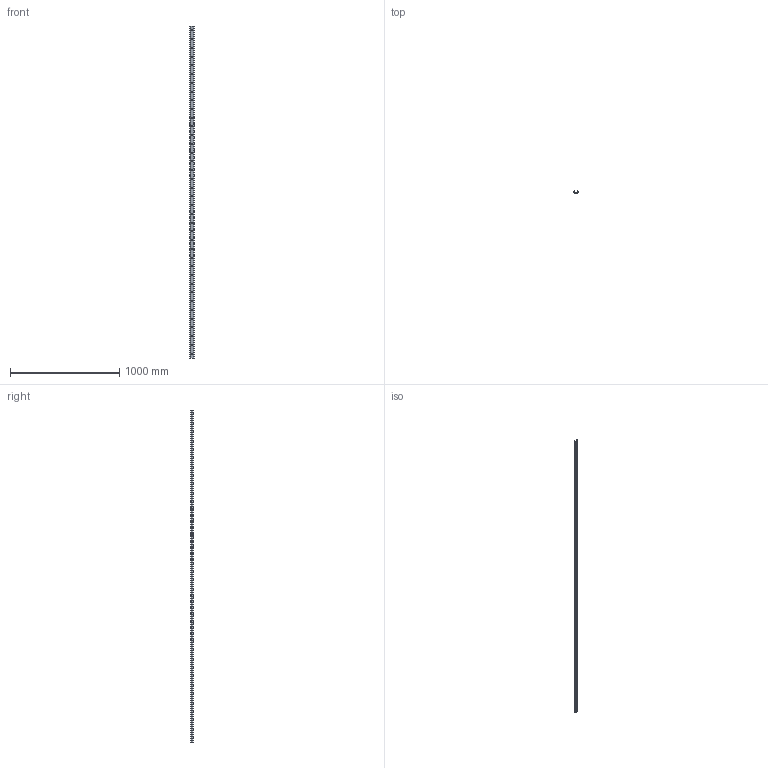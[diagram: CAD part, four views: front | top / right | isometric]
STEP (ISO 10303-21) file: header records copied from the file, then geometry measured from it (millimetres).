
FILE_DESCRIPTION(('STEP AP214'),'1');
FILE_NAME('rail_tex40-3040.stp','2019-03-08T08:33:49',('TraceParts'),('TraceParts S.A.'),'Spatial InterOp 3D',' ',' ');
FILE_SCHEMA(('automotive_design'));
Length unit declared in the file: millimetre
Products named in the file (1): rail_tex40-3040
Bounding box: 39.53 x 21 x 3040 mm (x, y, z)
Volume: 594363.4 mm3; surface area: 418622.2 mm2
Topology: 1 solids, 1 shells, 672 faces, 1740 edges, 1160 vertices
Faces by surface type: plane 474, bspline 110, cylinder 88
Entity records: 42693 total; most frequent: CARTESIAN_POINT 21243, ORIENTED_EDGE 3480, DIRECTION 2822, EDGE_CURVE 1740, LINE 1344, VECTOR 1344, VERTEX_POINT 1160, EDGE_LOOP 838
